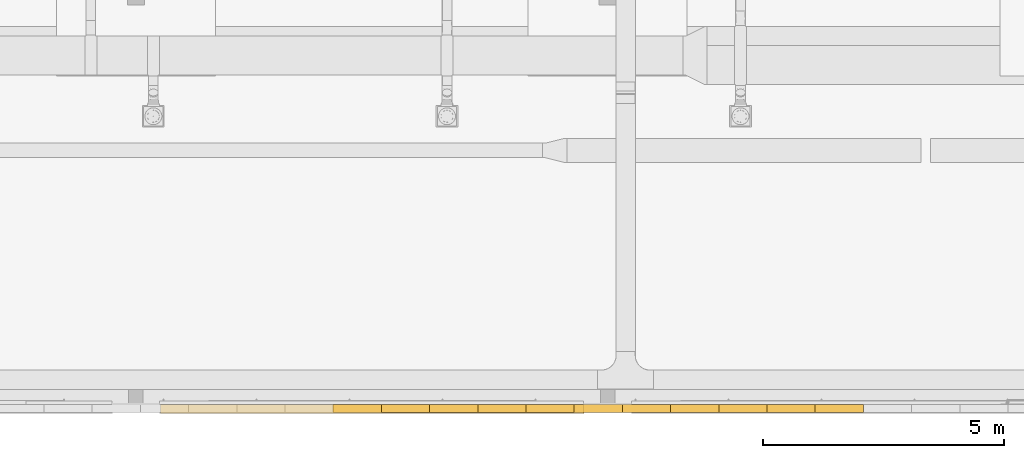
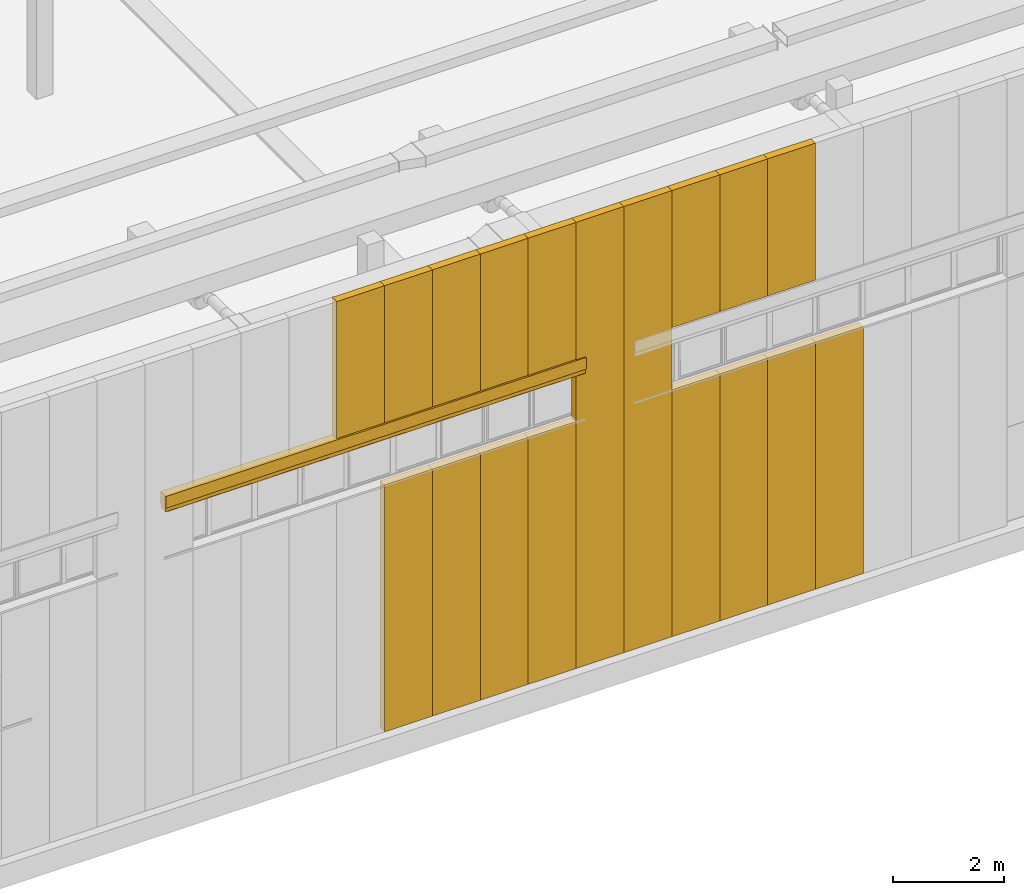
# One storey, part 219 of 302: 18 curtain walls, 1 window, 1 element without a shape of its own.
"""IFC2X3 building model written with IfcOpenShell, lengths in metres."""

import ifcopenshell
import ifcopenshell.guid

model = None  # the IFC model being written
_history = None  # IfcOwnerHistory: only IFC2X3 demands one
_inside = {}  # id of a spatial element -> (the spatial element, [elements in it])
_under = {}  # id of a project, library or spatial element -> (it, [spatial elements below it])
_declared = {}  # id of a project -> (the project, [libraries it declares])
_typed = {}  # id of a type object -> (the type object, [elements of that type])
_made_of = {}  # id of a material, layer set ... -> (it, [elements and type objects made of it])


def new_model(schema):
    """Start an empty IFC model of exactly this schema.

    Asked for "IFC4X3", IfcOpenShell would pick the latest addendum, in which some entities
    have other attributes; the version numbers below select the first issue.
    IFC2X3 requires an IfcOwnerHistory on every rooted entity: one is made here for all.
    """
    global model, _history
    if schema == "IFC4X3":
        model = ifcopenshell.file(schema_version=(4, 3, 0, 0))
    else:
        model = ifcopenshell.file(schema=schema)
    _inside.clear()
    _under.clear()
    _declared.clear()
    _typed.clear()
    _made_of.clear()
    _history = None
    if model.schema == "IFC2X3":
        org = make("IfcOrganization", Name="unknown")
        user = make(
            "IfcPersonAndOrganization",
            ThePerson=make("IfcPerson", FamilyName="unknown"),
            TheOrganization=org,
        )
        app = make(
            "IfcApplication",
            ApplicationDeveloper=org,
            Version="unknown",
            ApplicationFullName="unknown",
            ApplicationIdentifier="unknown",
        )
        _history = make(
            "IfcOwnerHistory",
            OwningUser=user,
            OwningApplication=app,
            ChangeAction="ADDED",
            CreationDate=0,
        )
    return model


def make(cls, **values):
    """One entity of the class cls with the attributes given. An attribute that is None is left unset."""
    return model.create_entity(
        cls, **{name: value for name, value in values.items() if value is not None}
    )


def entity(cls, *values):
    """Any entity or typed value of the class cls, its attributes in the order of the schema. None: left unset."""
    e = model.create_entity(cls)
    for i, value in enumerate(values):
        if value is not None:
            e[i] = value
    return e


def rooted(cls, **values):
    """An entity with a GlobalId (a new one), such as an element, a storey or a relation."""
    return make(cls, GlobalId=ifcopenshell.guid.new(), OwnerHistory=_history, **values)


def si_unit(unit_type, name, prefix=None):
    """IfcSIUnit, for example si_unit("LENGTHUNIT", "METRE", prefix="MILLI")."""
    return make("IfcSIUnit", UnitType=unit_type, Prefix=prefix, Name=name)


def converted_unit(unit_type, name, factor, base, dimensions=None, offset=None):
    """IfcConversionBasedUnit, such as the inch: factor (a typed value) times the base unit."""
    return make(
        "IfcConversionBasedUnit"
        if offset is None
        else "IfcConversionBasedUnitWithOffset",
        ConversionOffset=offset,
        Dimensions=None
        if dimensions is None
        else entity("IfcDimensionalExponents", *dimensions),
        UnitType=unit_type,
        Name=name,
        ConversionFactor=make(
            "IfcMeasureWithUnit", ValueComponent=factor, UnitComponent=base
        ),
    )


def derived_unit(unit_type, elements):
    """IfcDerivedUnit: a product of units, each with its exponent."""
    return make(
        "IfcDerivedUnit",
        Elements=[
            make("IfcDerivedUnitElement", Unit=unit, Exponent=power)
            for unit, power in elements
        ],
        UnitType=unit_type,
    )


def assignment(units):
    """IfcUnitAssignment: the units of a project."""
    return None if units is None else make("IfcUnitAssignment", Units=units)


def point(xyz):
    """IfcCartesianPoint."""
    return None if xyz is None else make("IfcCartesianPoint", Coordinates=xyz)


def direction(xyz):
    """IfcDirection."""
    return None if xyz is None else make("IfcDirection", DirectionRatios=xyz)


def frame(location, z_axis=None, x_axis=None):
    """IfcAxis2Placement3D, a coordinate frame: its origin and axes. An axis left out is left unset."""
    return make(
        "IfcAxis2Placement3D",
        Location=point(location),
        Axis=direction(z_axis),
        RefDirection=direction(x_axis),
    )


def frame_2d(location, x_axis=None):
    """IfcAxis2Placement2D, a coordinate frame in the plane: its origin and x axis."""
    return make(
        "IfcAxis2Placement2D", Location=point(location), RefDirection=direction(x_axis)
    )


def origin():
    """The frame at (0, 0, 0) with its axes left unset."""
    return frame((0.0, 0.0, 0.0))


def origin_2d_with_axis():
    """The frame at (0, 0) in the plane with the x axis (1, 0) written out."""
    return frame_2d((0.0, 0.0), x_axis=(1.0, 0.0))


def place(relative_to, where):
    """IfcLocalPlacement: puts the frame where relative to a parent placement (None: the world)."""
    return make(
        "IfcLocalPlacement", PlacementRelTo=relative_to, RelativePlacement=where
    )


def context(
    kind, dimensions, precision=None, world=None, true_north=None, identifier=None
):
    """IfcGeometricRepresentationContext, for example the 3D "Model" context."""
    return make(
        "IfcGeometricRepresentationContext",
        ContextIdentifier=identifier,
        ContextType=kind,
        CoordinateSpaceDimension=dimensions,
        Precision=precision,
        WorldCoordinateSystem=world,
        TrueNorth=true_north,
    )


def subcontext(parent, identifier, kind, view, scale=None):
    """IfcGeometricRepresentationSubContext, for example "Body" below "Model"."""
    return make(
        "IfcGeometricRepresentationSubContext",
        ContextIdentifier=identifier,
        ContextType=kind,
        ParentContext=parent,
        TargetScale=scale,
        TargetView=view,
    )


def project(units=None, contexts=None):
    """IfcProject with its units and contexts."""
    return rooted(
        "IfcProject",
        Name="project",
        RepresentationContexts=contexts,
        UnitsInContext=assignment(units),
    )


def spatial(cls, under=None, at=None, **own):
    """A site, building, storey or space (cls), placed at a placement, below another one or the project."""
    s = rooted(cls, ObjectPlacement=at, **own)
    if under is not None:
        _under.setdefault(under.id(), (under, []))[1].append(s)
    return s


def polyline(points):
    """IfcPolyline through the points."""
    return make("IfcPolyline", Points=[point(p) for p in points])


def circle_curve(where, radius):
    """IfcCircle in the frame where."""
    return make("IfcCircle", Position=where, Radius=radius)


def parameter(value):
    """IfcParameterValue: where a trimmed curve begins or ends, as a parameter of its basis curve."""
    return model.create_entity("IfcParameterValue", value)


def trimmed(basis, trim1, trim2, sense, master):
    """IfcTrimmedCurve: the piece of a basis curve between two trims."""
    return make(
        "IfcTrimmedCurve",
        BasisCurve=basis,
        Trim1=trim1,
        Trim2=trim2,
        SenseAgreement=sense,
        MasterRepresentation=master,
    )


def segment(curve, same_sense, transition):
    """IfcCompositeCurveSegment."""
    return make(
        "IfcCompositeCurveSegment",
        Transition=transition,
        SameSense=same_sense,
        ParentCurve=curve,
    )


def composite_curve(segments, self_intersect=None):
    """IfcCompositeCurve: segments joined end to end."""
    return make("IfcCompositeCurve", Segments=segments, SelfIntersect=self_intersect)


def profile(cls, at=None, kind="AREA", **sizes):
    """A parametric profile (cls). Its sizes go by their IFC names, for example OverallWidth=200.0."""
    return make(cls, ProfileType=kind, Position=at, **sizes)


def rectangle(**sizes):
    """IfcRectangleProfileDef."""
    return profile("IfcRectangleProfileDef", **sizes)


def outline(outer, holes=None, kind="AREA"):
    """IfcArbitraryClosedProfileDef: a profile drawn as a closed curve; with holes, ...WithVoids."""
    if holes is None:
        return make("IfcArbitraryClosedProfileDef", ProfileType=kind, OuterCurve=outer)
    return make(
        "IfcArbitraryProfileDefWithVoids",
        ProfileType=kind,
        OuterCurve=outer,
        InnerCurves=holes,
    )


def extrude(swept, where, along, depth):
    """IfcExtrudedAreaSolid: the profile swept, set in the frame where, extruded along a direction by depth."""
    return make(
        "IfcExtrudedAreaSolid",
        SweptArea=swept,
        Position=where,
        ExtrudedDirection=direction(along),
        Depth=depth,
    )


def shape(context_of_items, identifier, shape_type, items):
    """IfcShapeRepresentation: the items that make up one representation, for example the "Body"."""
    return make(
        "IfcShapeRepresentation",
        ContextOfItems=context_of_items,
        RepresentationIdentifier=identifier,
        RepresentationType=shape_type,
        Items=items,
    )


def source(mapping_origin, context_of_items, identifier, shape_type, items):
    """IfcRepresentationMap: a shape defined once, which mapped items show again and again."""
    return make(
        "IfcRepresentationMap",
        MappingOrigin=mapping_origin,
        MappedRepresentation=shape(context_of_items, identifier, shape_type, items),
    )


def transform(
    local_origin,
    x_axis=None,
    y_axis=None,
    z_axis=None,
    scale=None,
    scale2=None,
    scale3=None,
    uniform=True,
):
    """IfcCartesianTransformationOperator3D, or its non-uniform kind. x_axis, y_axis, z_axis: its Axis1, 2, 3."""
    if uniform:
        return make(
            "IfcCartesianTransformationOperator3D",
            Axis1=direction(x_axis),
            Axis2=direction(y_axis),
            LocalOrigin=point(local_origin),
            Scale=scale,
            Axis3=direction(z_axis),
        )
    return make(
        "IfcCartesianTransformationOperator3DnonUniform",
        Axis1=direction(x_axis),
        Axis2=direction(y_axis),
        LocalOrigin=point(local_origin),
        Scale=scale,
        Axis3=direction(z_axis),
        Scale2=scale2,
        Scale3=scale3,
    )


def mapped(mapping_source, mapping_target):
    """IfcMappedItem: shows the shape of a source again, moved by a transform."""
    return make(
        "IfcMappedItem", MappingSource=mapping_source, MappingTarget=mapping_target
    )


def material(Name=None, Category=None):
    """IfcMaterial."""
    return make("IfcMaterial", Name=Name, Category=Category)


def material_list(materials):
    """IfcMaterialList."""
    return make("IfcMaterialList", Materials=materials)


def layer(
    of_material, thickness, ventilated=None, Name=None, Category=None, Priority=None
):
    """IfcMaterialLayer: one layer of a wall or slab, of a material (None: an air gap)."""
    return make(
        "IfcMaterialLayer",
        Material=of_material,
        LayerThickness=thickness,
        IsVentilated=ventilated,
        Name=Name,
        Category=Category,
        Priority=Priority,
    )


def layer_set(layers, Name=None):
    """IfcMaterialLayerSet."""
    return make("IfcMaterialLayerSet", MaterialLayers=layers, LayerSetName=Name)


def layer_usage(for_layer_set, set_direction, sense, offset, extent=None):
    """IfcMaterialLayerSetUsage: how a layer set lies in its element."""
    return make(
        "IfcMaterialLayerSetUsage",
        ForLayerSet=for_layer_set,
        LayerSetDirection=set_direction,
        DirectionSense=sense,
        OffsetFromReferenceLine=offset,
        ReferenceExtent=extent,
    )


def made_of(thing, what):
    """Note that an element or type object is made of a material, layer set ...; save() writes the relation."""
    if what is not None:
        _made_of.setdefault(what.id(), (what, []))[1].append(thing)
    return thing


def type_object(cls, material=None, **own):
    """A type object (cls), such as IfcWallType, which elements share."""
    return made_of(rooted(cls, **own), material)


def type_shapes(of_type, sources):
    """Give a type object the sources (RepresentationMaps) that its elements show as mapped items."""
    of_type.RepresentationMaps = sources


def element(
    cls,
    number,
    at=None,
    inside=None,
    cuts=None,
    type_object=None,
    material=None,
    context=None,
    identifier="Body",
    shape_type=None,
    held_by="IfcProductDefinitionShape",
    body=None,
    shapes=None,
    **own,
):
    """One element of the class cls, such as IfcWall. Its Tag is "e" and its number.

    at: its placement. inside: the storey or other place that contains it. cuts: it is an
    opening in that element (IfcRelVoidsElement). A single representation is given by context,
    identifier, shape_type and body (its items); several are given by shapes. held_by: the class
    of the entity that holds the representations. save() writes the other relations.
    """
    e = rooted(cls, Tag="e%d" % number, ObjectPlacement=at, **own)
    if body is not None:
        shapes = [shape(context, identifier, shape_type, body)]
    if shapes is not None:
        e.Representation = make(held_by, Representations=shapes)
    if inside is not None:
        _inside.setdefault(inside.id(), (inside, []))[1].append(e)
    if cuts is not None:
        rooted(
            "IfcRelVoidsElement", RelatingBuildingElement=cuts, RelatedOpeningElement=e
        )
    if type_object is not None:
        _typed.setdefault(type_object.id(), (type_object, []))[1].append(e)
    return made_of(e, material)


def aggregate(whole, parts):
    """IfcRelAggregates: a whole, such as a stair, and the parts it consists of."""
    return rooted("IfcRelAggregates", RelatingObject=whole, RelatedObjects=parts)


def save(model, path):
    """Write the relations noted so far, then the file.

    IfcRelAggregates (storeys below a building ...), IfcRelContainedInSpatialStructure (elements
    in a storey), IfcRelDefinesByType, IfcRelAssociatesMaterial and IfcRelDeclares: one each for
    every whole, place, type object, material and project.
    """
    for whole, parts in _under.values():
        aggregate(whole, parts)
    for where, things in _inside.values():
        rooted(
            "IfcRelContainedInSpatialStructure",
            RelatedElements=things,
            RelatingStructure=where,
        )
    for kind, things in _typed.values():
        rooted("IfcRelDefinesByType", RelatedObjects=things, RelatingType=kind)
    for what, things in _made_of.values():
        rooted("IfcRelAssociatesMaterial", RelatedObjects=things, RelatingMaterial=what)
    for by, libraries in _declared.values():
        rooted("IfcRelDeclares", RelatingContext=by, RelatedDefinitions=libraries)
    model.write(path)


model = new_model("IFC2X3")

# Units and contexts
model_context = context("Model", 3, precision=1e-05, world=origin(), true_north=direction((6.12303176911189e-17, 1.0)))
body_context = subcontext(model_context, "Body", "Model", "MODEL_VIEW")
ifc_project = project(units=[si_unit("LENGTHUNIT", "METRE"), si_unit("AREAUNIT", "SQUARE_METRE"), si_unit("VOLUMEUNIT", "CUBIC_METRE"), converted_unit("PLANEANGLEUNIT", "DEGREE", entity("IfcRatioMeasure", 0.0174532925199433), si_unit("PLANEANGLEUNIT", "RADIAN"), dimensions=[0, 0, 0, 0, 0, 0, 0]), si_unit("MASSUNIT", "GRAM", prefix="KILO"), derived_unit("MASSDENSITYUNIT", [(si_unit("MASSUNIT", "GRAM", prefix="KILO"), 1), (si_unit("LENGTHUNIT", "METRE"), -3)]), derived_unit("MOMENTOFINERTIAUNIT", [(si_unit("LENGTHUNIT", "METRE"), 4)]), si_unit("TIMEUNIT", "SECOND"), si_unit("FREQUENCYUNIT", "HERTZ"), si_unit("THERMODYNAMICTEMPERATUREUNIT", "DEGREE_CELSIUS"), derived_unit("THERMALTRANSMITTANCEUNIT", [(si_unit("MASSUNIT", "GRAM", prefix="KILO"), 1), (si_unit("THERMODYNAMICTEMPERATUREUNIT", "KELVIN"), -1), (si_unit("TIMEUNIT", "SECOND"), -3)]), derived_unit("VOLUMETRICFLOWRATEUNIT", [(si_unit("LENGTHUNIT", "METRE"), 3), (si_unit("TIMEUNIT", "SECOND"), -1)]), si_unit("ELECTRICCURRENTUNIT", "AMPERE"), si_unit("ELECTRICVOLTAGEUNIT", "VOLT"), si_unit("POWERUNIT", "WATT"), si_unit("FORCEUNIT", "NEWTON", prefix="KILO"), si_unit("ILLUMINANCEUNIT", "LUX"), si_unit("LUMINOUSFLUXUNIT", "LUMEN"), si_unit("LUMINOUSINTENSITYUNIT", "CANDELA"), derived_unit("USERDEFINED", [(si_unit("MASSUNIT", "GRAM", prefix="KILO"), -1), (si_unit("LENGTHUNIT", "METRE"), -2), (si_unit("TIMEUNIT", "SECOND"), 3), (si_unit("LUMINOUSFLUXUNIT", "LUMEN"), 1)]), derived_unit("LINEARVELOCITYUNIT", [(si_unit("LENGTHUNIT", "METRE"), 1), (si_unit("TIMEUNIT", "SECOND"), -1)]), si_unit("PRESSUREUNIT", "PASCAL"), derived_unit("USERDEFINED", [(si_unit("LENGTHUNIT", "METRE"), -2), (si_unit("MASSUNIT", "GRAM", prefix="KILO"), 1), (si_unit("TIMEUNIT", "SECOND"), -2)]), derived_unit("LINEARFORCEUNIT", [(si_unit("MASSUNIT", "GRAM", prefix="KILO"), 1), (si_unit("LENGTHUNIT", "METRE"), 1), (si_unit("TIMEUNIT", "SECOND"), -2), (si_unit("LENGTHUNIT", "METRE"), -1)]), derived_unit("PLANARFORCEUNIT", [(si_unit("MASSUNIT", "GRAM", prefix="KILO"), 1), (si_unit("LENGTHUNIT", "METRE"), 1), (si_unit("TIMEUNIT", "SECOND"), -2), (si_unit("LENGTHUNIT", "METRE"), -2)])], contexts=[model_context])

# Site, building, storey
site_placement = place(None, origin())
site = spatial("IfcSite", under=ifc_project, at=site_placement, Name="Default", CompositionType="ELEMENT")
building_placement = place(site_placement, origin())
building = spatial("IfcBuilding", under=site, at=building_placement, CompositionType="ELEMENT")
storey_placement = place(building_placement, frame((0.0, 0.0, -1.3)))
storey = spatial("IfcBuildingStorey", under=building, at=storey_placement, Name="00_EG", CompositionType="ELEMENT", Elevation=-1.3)

# Curtain walls
curtain_wall_type_1 = type_object("IfcCurtainWallType", Name="Fassade:Sandwichpaneele 16cm", PredefinedType="NOTDEFINED")
curtain_wall_1_placement = place(storey_placement, frame((0.0, 0.0, 1.3)))
curtain_wall_1 = element("IfcCurtainWall", 1, at=curtain_wall_1_placement, inside=storey, type_object=curtain_wall_type_1, Name="Fassade:Sandwichpaneele 16cm", ObjectType="Fassade:Sandwichpaneele 16cm")
ifc_material_1 = material(Name="Prepainted_Steel-ArcelorMittal_Construction_HAIRULTRA-35-CORAL-4309-[RAL_3000]")
ifc_layer_1 = layer(ifc_material_1, 0.015)
ifc_material_2 = material(Name="ArcelorMittal-MineralWool")
ifc_layer_2 = layer(ifc_material_2, 0.13)
ifc_material_3 = material(Name="Prepainted_Steel-ArcelorMittal_Construction_INTÉRIEUR-12-WHITE-912")
ifc_layer_3 = layer(ifc_material_3, 0.015)
ifc_layer_set = layer_set([ifc_layer_1, ifc_layer_2, ifc_layer_3], Name="Fassade:Sandwichpaneele 16cm")
ifc_layer_usage_1 = layer_usage(ifc_layer_set, "AXIS2", "POSITIVE", -0.08)
curtain_wall_type_2 = type_object("IfcCurtainWallType", Name="Basiswand:Sandwichpaneele d = 16cm aussen", PredefinedType="NOTDEFINED", material=ifc_layer_set)
curtain_wall_2_placement = place(storey_placement, frame((-241.840111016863, 14.898088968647, 1.27)))
curtain_wall_2 = element("IfcCurtainWall", 2, at=curtain_wall_2_placement, type_object=curtain_wall_type_2, material=ifc_layer_usage_1, Name="Basiswand:Sandwichpaneele d = 16cm aussen", ObjectType="Basiswand:Sandwichpaneele d = 16cm aussen", context=body_context, shape_type="SweptSolid", body=[
    extrude(rectangle(XDim=1.00000000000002, YDim=0.159999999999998, at=frame_2d((0.500000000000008, 0.0), x_axis=(-1.0, 0.0))), origin(), (0.0, 0.0, 1.0), 5.44999999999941),
])
ifc_layer_usage_2 = layer_usage(ifc_layer_set, "AXIS2", "POSITIVE", -0.08)
curtain_wall_3_placement = place(storey_placement, frame((-240.840111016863, 14.898088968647, 1.27)))
curtain_wall_3 = element("IfcCurtainWall", 3, at=curtain_wall_3_placement, type_object=curtain_wall_type_2, material=ifc_layer_usage_2, Name="Basiswand:Sandwichpaneele d = 16cm aussen", ObjectType="Basiswand:Sandwichpaneele d = 16cm aussen", context=body_context, shape_type="SweptSolid", body=[
    extrude(rectangle(XDim=0.999999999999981, YDim=0.159999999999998, at=frame_2d((0.49999999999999, 0.0), x_axis=(-1.0, 0.0))), origin(), (0.0, 0.0, 1.0), 5.44999999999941),
])
ifc_layer_usage_3 = layer_usage(ifc_layer_set, "AXIS2", "POSITIVE", -0.08)
curtain_wall_4_placement = place(storey_placement, frame((-239.840111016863, 14.898088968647, 1.27)))
curtain_wall_4 = element("IfcCurtainWall", 4, at=curtain_wall_4_placement, type_object=curtain_wall_type_2, material=ifc_layer_usage_3, Name="Basiswand:Sandwichpaneele d = 16cm aussen", ObjectType="Basiswand:Sandwichpaneele d = 16cm aussen", context=body_context, shape_type="SweptSolid", body=[
    extrude(rectangle(XDim=1.00000000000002, YDim=0.159999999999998, at=frame_2d((0.500000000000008, 0.0), x_axis=(-1.0, 0.0))), origin(), (0.0, 0.0, 1.0), 5.44999999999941),
])
ifc_layer_usage_4 = layer_usage(ifc_layer_set, "AXIS2", "POSITIVE", -0.08)
curtain_wall_5_placement = place(storey_placement, frame((-238.840111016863, 14.898088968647, 1.27)))
curtain_wall_5 = element("IfcCurtainWall", 5, at=curtain_wall_5_placement, type_object=curtain_wall_type_2, material=ifc_layer_usage_4, Name="Basiswand:Sandwichpaneele d = 16cm aussen", ObjectType="Basiswand:Sandwichpaneele d = 16cm aussen", context=body_context, shape_type="SweptSolid", body=[
    extrude(rectangle(XDim=0.999999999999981, YDim=0.159999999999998, at=frame_2d((0.49999999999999, 0.0), x_axis=(-1.0, 0.0))), origin(), (0.0, 0.0, 1.0), 5.44999999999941),
])
ifc_layer_usage_5 = layer_usage(ifc_layer_set, "AXIS2", "POSITIVE", -0.08)
curtain_wall_6_placement = place(storey_placement, frame((-236.840111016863, 14.898088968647, 1.27)))
curtain_wall_6 = element("IfcCurtainWall", 6, at=curtain_wall_6_placement, type_object=curtain_wall_type_2, material=ifc_layer_usage_5, Name="Basiswand:Sandwichpaneele d = 16cm aussen", ObjectType="Basiswand:Sandwichpaneele d = 16cm aussen", context=body_context, shape_type="SweptSolid", body=[
    extrude(rectangle(XDim=0.999999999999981, YDim=0.159999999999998, at=frame_2d((0.49999999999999, 0.0), x_axis=(-1.0, 0.0))), origin(), (0.0, 0.0, 1.0), 9.8509),
])
ifc_layer_usage_6 = layer_usage(ifc_layer_set, "AXIS2", "POSITIVE", -0.08)
curtain_wall_7_placement = place(storey_placement, frame((-235.840111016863, 14.898088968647, 1.27)))
curtain_wall_7 = element("IfcCurtainWall", 7, at=curtain_wall_7_placement, type_object=curtain_wall_type_2, material=ifc_layer_usage_6, Name="Basiswand:Sandwichpaneele d = 16cm aussen", ObjectType="Basiswand:Sandwichpaneele d = 16cm aussen", context=body_context, shape_type="SweptSolid", body=[
    extrude(rectangle(XDim=1.00000000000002, YDim=0.159999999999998, at=frame_2d((0.500000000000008, 0.0), x_axis=(-1.0, 0.0))), origin(), (0.0, 0.0, 1.0), 5.44999999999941),
])
ifc_layer_usage_7 = layer_usage(ifc_layer_set, "AXIS2", "POSITIVE", -0.08)
curtain_wall_8_placement = place(storey_placement, frame((-234.840111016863, 14.898088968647, 1.27)))
curtain_wall_8 = element("IfcCurtainWall", 8, at=curtain_wall_8_placement, type_object=curtain_wall_type_2, material=ifc_layer_usage_7, Name="Basiswand:Sandwichpaneele d = 16cm aussen", ObjectType="Basiswand:Sandwichpaneele d = 16cm aussen", context=body_context, shape_type="SweptSolid", body=[
    extrude(rectangle(XDim=0.999999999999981, YDim=0.159999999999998, at=frame_2d((0.49999999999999, 0.0), x_axis=(-1.0, 0.0))), origin(), (0.0, 0.0, 1.0), 5.44999999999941),
])
ifc_layer_usage_8 = layer_usage(ifc_layer_set, "AXIS2", "POSITIVE", -0.08)
curtain_wall_9_placement = place(storey_placement, frame((-233.840111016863, 14.898088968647, 1.27)))
curtain_wall_9 = element("IfcCurtainWall", 9, at=curtain_wall_9_placement, type_object=curtain_wall_type_2, material=ifc_layer_usage_8, Name="Basiswand:Sandwichpaneele d = 16cm aussen", ObjectType="Basiswand:Sandwichpaneele d = 16cm aussen", context=body_context, shape_type="SweptSolid", body=[
    extrude(rectangle(XDim=1.00000000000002, YDim=0.159999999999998, at=frame_2d((0.500000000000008, 0.0), x_axis=(-1.0, 0.0))), origin(), (0.0, 0.0, 1.0), 5.44999999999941),
])
ifc_layer_usage_9 = layer_usage(ifc_layer_set, "AXIS2", "POSITIVE", -0.08)
curtain_wall_10_placement = place(storey_placement, frame((-232.840111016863, 14.898088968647, 1.27)))
curtain_wall_10 = element("IfcCurtainWall", 10, at=curtain_wall_10_placement, type_object=curtain_wall_type_2, material=ifc_layer_usage_9, Name="Basiswand:Sandwichpaneele d = 16cm aussen", ObjectType="Basiswand:Sandwichpaneele d = 16cm aussen", context=body_context, shape_type="SweptSolid", body=[
    extrude(rectangle(XDim=0.999999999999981, YDim=0.159999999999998, at=frame_2d((0.49999999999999, 0.0), x_axis=(-1.0, 0.0))), origin(), (0.0, 0.0, 1.0), 5.44999999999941),
])
ifc_layer_usage_10 = layer_usage(ifc_layer_set, "AXIS2", "POSITIVE", -0.08)
curtain_wall_11_placement = place(storey_placement, frame((-242.840111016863, 14.898088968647, 8.09499999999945)))
curtain_wall_11 = element("IfcCurtainWall", 11, at=curtain_wall_11_placement, type_object=curtain_wall_type_2, material=ifc_layer_usage_10, Name="Basiswand:Sandwichpaneele d = 16cm aussen", ObjectType="Basiswand:Sandwichpaneele d = 16cm aussen", context=body_context, shape_type="SweptSolid", body=[
    extrude(rectangle(XDim=0.999999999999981, YDim=0.159999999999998, at=frame_2d((0.49999999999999, 0.0), x_axis=(-1.0, 0.0))), origin(), (0.0, 0.0, 1.0), 3.02590000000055),
])
ifc_layer_usage_11 = layer_usage(ifc_layer_set, "AXIS2", "POSITIVE", -0.08)
curtain_wall_12_placement = place(storey_placement, frame((-241.840111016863, 14.898088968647, 8.09499999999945)))
curtain_wall_12 = element("IfcCurtainWall", 12, at=curtain_wall_12_placement, type_object=curtain_wall_type_2, material=ifc_layer_usage_11, Name="Basiswand:Sandwichpaneele d = 16cm aussen", ObjectType="Basiswand:Sandwichpaneele d = 16cm aussen", context=body_context, shape_type="SweptSolid", body=[
    extrude(rectangle(XDim=1.00000000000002, YDim=0.159999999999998, at=frame_2d((0.500000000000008, 0.0), x_axis=(-1.0, 0.0))), origin(), (0.0, 0.0, 1.0), 3.02590000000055),
])
ifc_layer_usage_12 = layer_usage(ifc_layer_set, "AXIS2", "POSITIVE", -0.08)
curtain_wall_13_placement = place(storey_placement, frame((-240.840111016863, 14.898088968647, 8.09499999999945)))
curtain_wall_13 = element("IfcCurtainWall", 13, at=curtain_wall_13_placement, type_object=curtain_wall_type_2, material=ifc_layer_usage_12, Name="Basiswand:Sandwichpaneele d = 16cm aussen", ObjectType="Basiswand:Sandwichpaneele d = 16cm aussen", context=body_context, shape_type="SweptSolid", body=[
    extrude(rectangle(XDim=0.999999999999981, YDim=0.159999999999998, at=frame_2d((0.49999999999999, 0.0), x_axis=(-1.0, 0.0))), origin(), (0.0, 0.0, 1.0), 3.02590000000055),
])
ifc_layer_usage_13 = layer_usage(ifc_layer_set, "AXIS2", "POSITIVE", -0.08)
curtain_wall_14_placement = place(storey_placement, frame((-239.840111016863, 14.898088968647, 8.09499999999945)))
curtain_wall_14 = element("IfcCurtainWall", 14, at=curtain_wall_14_placement, type_object=curtain_wall_type_2, material=ifc_layer_usage_13, Name="Basiswand:Sandwichpaneele d = 16cm aussen", ObjectType="Basiswand:Sandwichpaneele d = 16cm aussen", context=body_context, shape_type="SweptSolid", body=[
    extrude(rectangle(XDim=1.00000000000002, YDim=0.159999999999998, at=frame_2d((0.500000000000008, 0.0), x_axis=(-1.0, 0.0))), origin(), (0.0, 0.0, 1.0), 3.02590000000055),
])
ifc_layer_usage_14 = layer_usage(ifc_layer_set, "AXIS2", "POSITIVE", -0.08)
curtain_wall_15_placement = place(storey_placement, frame((-238.840111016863, 14.898088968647, 8.09499999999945)))
curtain_wall_15 = element("IfcCurtainWall", 15, at=curtain_wall_15_placement, type_object=curtain_wall_type_2, material=ifc_layer_usage_14, Name="Basiswand:Sandwichpaneele d = 16cm aussen", ObjectType="Basiswand:Sandwichpaneele d = 16cm aussen", context=body_context, shape_type="SweptSolid", body=[
    extrude(rectangle(XDim=0.999999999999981, YDim=0.159999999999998, at=frame_2d((0.49999999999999, 0.0), x_axis=(-1.0, 0.0))), origin(), (0.0, 0.0, 1.0), 3.02590000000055),
])
ifc_layer_usage_15 = layer_usage(ifc_layer_set, "AXIS2", "POSITIVE", -0.08)
curtain_wall_16_placement = place(storey_placement, frame((-237.840111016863, 14.898088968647, 1.27)))
curtain_wall_16 = element("IfcCurtainWall", 16, at=curtain_wall_16_placement, type_object=curtain_wall_type_2, material=ifc_layer_usage_15, Name="Basiswand:Sandwichpaneele d = 16cm aussen", ObjectType="Basiswand:Sandwichpaneele d = 16cm aussen", context=body_context, shape_type="SweptSolid", body=[
    extrude(rectangle(XDim=1.00000000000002, YDim=0.159999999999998, at=frame_2d((0.500000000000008, 0.0), x_axis=(-1.0, 0.0))), origin(), (0.0, 0.0, 1.0), 9.8509),
])
ifc_layer_usage_16 = layer_usage(ifc_layer_set, "AXIS2", "POSITIVE", -0.08)
curtain_wall_17_placement = place(storey_placement, frame((-235.840111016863, 14.898088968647, 8.09499999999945)))
curtain_wall_17 = element("IfcCurtainWall", 17, at=curtain_wall_17_placement, type_object=curtain_wall_type_2, material=ifc_layer_usage_16, Name="Basiswand:Sandwichpaneele d = 16cm aussen", ObjectType="Basiswand:Sandwichpaneele d = 16cm aussen", context=body_context, shape_type="SweptSolid", body=[
    extrude(rectangle(XDim=1.00000000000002, YDim=0.159999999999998, at=frame_2d((0.500000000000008, 0.0), x_axis=(-1.0, 0.0))), origin(), (0.0, 0.0, 1.0), 3.02590000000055),
])
ifc_layer_usage_17 = layer_usage(ifc_layer_set, "AXIS2", "POSITIVE", -0.08)
curtain_wall_18_placement = place(storey_placement, frame((-234.840111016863, 14.898088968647, 8.09499999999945)))
curtain_wall_18 = element("IfcCurtainWall", 18, at=curtain_wall_18_placement, type_object=curtain_wall_type_2, material=ifc_layer_usage_17, Name="Basiswand:Sandwichpaneele d = 16cm aussen", ObjectType="Basiswand:Sandwichpaneele d = 16cm aussen", context=body_context, shape_type="SweptSolid", body=[
    extrude(rectangle(XDim=0.999999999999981, YDim=0.159999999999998, at=frame_2d((0.49999999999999, 0.0), x_axis=(-1.0, 0.0))), origin(), (0.0, 0.0, 1.0), 3.02590000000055),
])
ifc_layer_usage_18 = layer_usage(ifc_layer_set, "AXIS2", "POSITIVE", -0.08)
curtain_wall_19_placement = place(storey_placement, frame((-233.840111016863, 14.898088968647, 8.09499999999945)))
curtain_wall_19 = element("IfcCurtainWall", 19, at=curtain_wall_19_placement, type_object=curtain_wall_type_2, material=ifc_layer_usage_18, Name="Basiswand:Sandwichpaneele d = 16cm aussen", ObjectType="Basiswand:Sandwichpaneele d = 16cm aussen", context=body_context, shape_type="SweptSolid", body=[
    extrude(rectangle(XDim=1.00000000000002, YDim=0.159999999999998, at=frame_2d((0.500000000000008, 0.0), x_axis=(-1.0, 0.0))), origin(), (0.0, 0.0, 1.0), 3.02590000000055),
])
aggregate(curtain_wall_1, [curtain_wall_2, curtain_wall_3, curtain_wall_4, curtain_wall_5, curtain_wall_6, curtain_wall_7, curtain_wall_8, curtain_wall_9, curtain_wall_10, curtain_wall_11, curtain_wall_12, curtain_wall_13, curtain_wall_14, curtain_wall_15, curtain_wall_16, curtain_wall_17, curtain_wall_18, curtain_wall_19])

# Window
ifc_material_4 = material(Name="Metall - Edelstahl satiniert")
ifc_material_5 = material(Name="Metall - Raffstore vertikale Stellung")
ifc_material_6 = material(Name="<Unnamed>")
ifc_material_list_1 = material_list([ifc_material_4, ifc_material_5, ifc_material_6])
ifc_material_list_2 = material_list([ifc_material_4, ifc_material_4, ifc_material_5, ifc_material_6, ifc_material_5, ifc_material_5, ifc_material_4])
window_style = type_object("IfcWindowStyle", Name="Blende Raffstore:Raffstore geschlossen, Stellung senkrecht", ConstructionType="NOTDEFINED", OperationType="NOTDEFINED", ParameterTakesPrecedence=False, Sizeable=False, material=ifc_material_list_2)
shared_shape = source(origin(), body_context, "Body", "SweptSolid", [
    extrude(rectangle(XDim=0.00500000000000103, YDim=0.189999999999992, at=origin_2d_with_axis()), frame((8.7775, 0.0949999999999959, 0.0), z_axis=(0.0, 0.0, 1.0), x_axis=(-1.0, 0.0, 0.0)), (0.0, 0.0, 1.0), 0.259999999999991),
    extrude(rectangle(XDim=0.00500000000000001, YDim=0.190000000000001, at=origin_2d_with_axis()), frame((0.00250000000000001, 0.0950000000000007, 0.0), z_axis=(0.0, 0.0, 1.0), x_axis=(-1.0, 0.0, 0.0)), (0.0, 0.0, 1.0), 0.260000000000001),
    extrude(outline(composite_curve([segment(polyline([(-0.122576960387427, -0.0750000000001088), (0.122576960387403, -0.0750000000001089)]), True, "CONTINUOUS"), segment(trimmed(circle_curve(frame_2d((0.424460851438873, 0.0), x_axis=(0.0, 1.0)), 0.311060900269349), [parameter(76.0479171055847)], [parameter(103.952082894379)], True, "PARAMETER"), False, "CONTINUOUS"), segment(polyline([(0.122576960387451, 0.0750000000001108), (-0.122576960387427, 0.0750000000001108)]), True, "CONTINUOUS"), segment(polyline([(-0.122576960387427, 0.0750000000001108), (-0.122576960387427, -0.0750000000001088)]), True, "CONTINUOUS")], self_intersect=False)), frame((0.005, 0.0950000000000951, 0.0324230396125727), z_axis=(1.0, 0.0, 0.0), x_axis=(0.0, 0.0, -1.0)), (0.0, 0.0, 1.0), 8.77),
    extrude(rectangle(XDim=8.77, YDim=0.0799999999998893, at=frame_2d((0.0, 1.73472347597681e-17), x_axis=(1.0, 0.0))), frame((4.39, 0.0950000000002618, 0.175), z_axis=(0.0, 0.0, 1.0), x_axis=(-1.0, 0.0, 0.0)), (0.0, 0.0, 1.0), 0.0799999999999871),
    extrude(outline(composite_curve([segment(trimmed(circle_curve(frame_2d((-0.28429694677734, 0.098190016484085), x_axis=(0.326455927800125, 0.945212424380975)), 0.309068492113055), [parameter(255.956135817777)], [parameter(284.043864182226)], True, "PARAMETER"), False, "CONTINUOUS"), segment(polyline([(-0.0253776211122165, -0.070582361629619), (-0.023803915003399, -0.0718166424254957)]), True, "CONTINUOUS"), segment(trimmed(circle_curve(frame_2d((-0.28429694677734, 0.098190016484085), x_axis=(0.326455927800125, 0.945212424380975)), 0.311060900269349), [parameter(255.923964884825)], [parameter(284.076035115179)], True, "PARAMETER"), True, "CONTINUOUS"), segment(polyline([(0.025590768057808, 0.0711995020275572), (0.0235907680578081, 0.0711995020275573)]), True, "CONTINUOUS")], self_intersect=False)), frame((0.005, 0.0950000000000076, -0.0990547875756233), z_axis=(-1.0, 0.0, 0.0), x_axis=(0.0, 0.326455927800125, 0.945212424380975)), (0.0, 0.0, -1.0), 8.76999999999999),
    extrude(outline(composite_curve([segment(trimmed(circle_curve(frame_2d((-0.284296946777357, 0.0981900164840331), x_axis=(0.326455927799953, 0.945212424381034)), 0.309068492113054), [parameter(255.956135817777)], [parameter(284.043864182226)], True, "PARAMETER"), False, "CONTINUOUS"), segment(polyline([(-0.0253776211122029, -0.0705823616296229), (-0.0238039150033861, -0.0718166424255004)]), True, "CONTINUOUS"), segment(trimmed(circle_curve(frame_2d((-0.284296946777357, 0.0981900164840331), x_axis=(0.326455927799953, 0.945212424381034)), 0.311060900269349), [parameter(255.923964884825)], [parameter(284.076035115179)], True, "PARAMETER"), True, "CONTINUOUS"), segment(polyline([(0.0255907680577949, 0.0711995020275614), (0.023590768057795, 0.0711995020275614)]), True, "CONTINUOUS")], self_intersect=False)), frame((0.005, 0.0950000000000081, -0.0912620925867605), z_axis=(-1.0, 0.0, 0.0), x_axis=(0.0, 0.326455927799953, 0.945212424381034)), (0.0, 0.0, -1.0), 8.76999999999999),
    extrude(outline(polyline([(-0.167154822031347, -0.095000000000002), (0.0928451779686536, -0.095000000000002), (0.077845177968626, -0.0799999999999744), (0.077845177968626, -0.0870710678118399), (0.0807741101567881, -0.090000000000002), (-0.162154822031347, -0.0900000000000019), (-0.162154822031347, 0.0899999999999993), (0.0807741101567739, 0.0899999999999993), (0.0778451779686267, 0.0870710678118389), (0.0778451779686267, 0.0799999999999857), (0.0928451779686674, 0.0949999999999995), (-0.167154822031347, 0.0949999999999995), (-0.167154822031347, -0.095000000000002)])), frame((0.005, 0.095000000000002, 0.0928451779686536), z_axis=(1.0, 0.0, 0.0), x_axis=(0.0, 0.0, -1.0)), (0.0, 0.0, 1.0), 8.77),
])
type_shapes(window_style, [shared_shape])
window_placement = place(storey_placement, frame((-237.641986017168, 14.983088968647, 7.8250000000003), z_axis=(0.0, 0.0, 1.0), x_axis=(-1.0, 0.0, 0.0)))
element("IfcWindow", 20, at=window_placement, inside=storey, type_object=window_style, material=ifc_material_list_1, Name="Blende Raffstore:Raffstore geschlossen, Stellung senkrecht", ObjectType="Blende Raffstore:Raffstore geschlossen, Stellung senkrecht", OverallHeight=0.360000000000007, OverallWidth=8.78, context=body_context, shape_type="MappedRepresentation", body=[
    mapped(shared_shape, transform((0.0, 0.0, 0.0), scale=1.0)),
])

save(model, "model.ifc")
